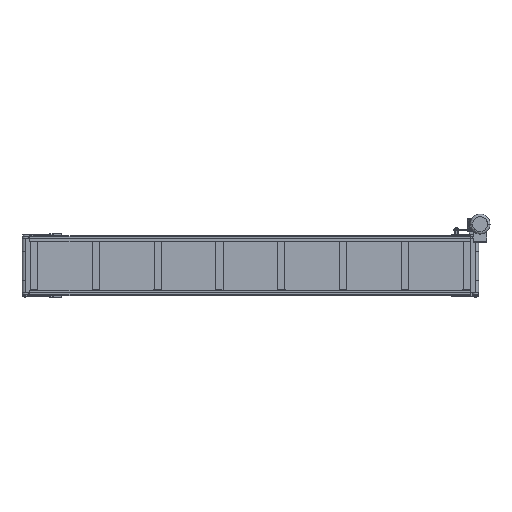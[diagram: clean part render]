
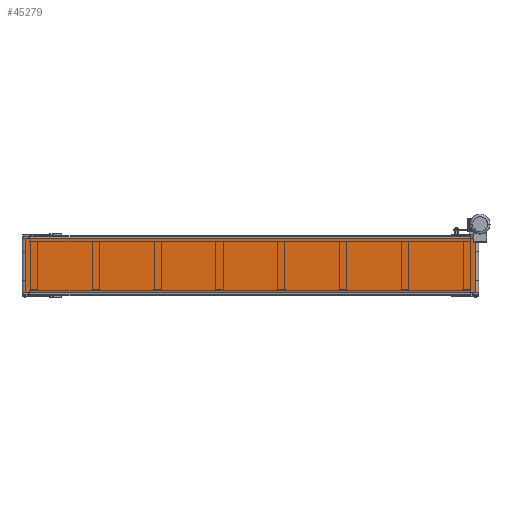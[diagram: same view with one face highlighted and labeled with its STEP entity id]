
A CAD part, front view. The second image highlights one B-rep face of the part: STEP entity #45279.
In plain terms, the highlighted planar face has unit normal (0, -1, 0).
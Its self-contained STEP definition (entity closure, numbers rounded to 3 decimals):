
#280 = LINE ( 'NONE', #20121, #41090 ) ;
#4487 = DIRECTION ( 'NONE',  ( 0., 0., 1. ) ) ;
#5079 = CARTESIAN_POINT ( 'NONE',  ( 1250., -17., -150. ) ) ;
#5331 = DIRECTION ( 'NONE',  ( 1., 0., 0. ) ) ;
#5582 = CARTESIAN_POINT ( 'NONE',  ( -1250., -17., -150. ) ) ;
#6230 = CARTESIAN_POINT ( 'NONE',  ( -1250., -17., -150. ) ) ;
#8256 = VERTEX_POINT ( 'NONE', #13049 ) ;
#8300 = EDGE_CURVE ( 'NONE', #33321, #11233, #40654, .T. ) ;
#8591 = CARTESIAN_POINT ( 'NONE',  ( -1250., -17., 150. ) ) ;
#8914 = EDGE_CURVE ( 'NONE', #28485, #11233, #24260, .T. ) ;
#10990 = PLANE ( 'NONE',  #32070 ) ;
#11233 = VERTEX_POINT ( 'NONE', #5079 ) ;
#11661 = CARTESIAN_POINT ( 'NONE',  ( 1250., -17., 150. ) ) ;
#13049 = CARTESIAN_POINT ( 'NONE',  ( -1250., -17., 150. ) ) ;
#14720 = CARTESIAN_POINT ( 'NONE',  ( -1250., -17., 150. ) ) ;
#14874 = ORIENTED_EDGE ( 'NONE', *, *, #8914, .F. ) ;
#15754 = DIRECTION ( 'NONE',  ( 0., 0., -1. ) ) ;
#15788 = DIRECTION ( 'NONE',  ( 0., 0., -1. ) ) ;
#16583 = FACE_OUTER_BOUND ( 'NONE', #46785, .T. ) ;
#20121 = CARTESIAN_POINT ( 'NONE',  ( -1250., -17., 150. ) ) ;
#22113 = ORIENTED_EDGE ( 'NONE', *, *, #44406, .T. ) ;
#22822 = VECTOR ( 'NONE', #15788, 1000. ) ;
#24260 = LINE ( 'NONE', #11661, #22822 ) ;
#24660 = ORIENTED_EDGE ( 'NONE', *, *, #37755, .F. ) ;
#28485 = VERTEX_POINT ( 'NONE', #44922 ) ;
#32070 = AXIS2_PLACEMENT_3D ( 'NONE', #8591, #46593, #4487 ) ;
#33321 = VERTEX_POINT ( 'NONE', #6230 ) ;
#34148 = ORIENTED_EDGE ( 'NONE', *, *, #8300, .T. ) ;
#34181 = VECTOR ( 'NONE', #5331, 1000. ) ;
#35203 = VECTOR ( 'NONE', #45698, 1000. ) ;
#37755 = EDGE_CURVE ( 'NONE', #8256, #28485, #50073, .T. ) ;
#40654 = LINE ( 'NONE', #5582, #34181 ) ;
#41090 = VECTOR ( 'NONE', #15754, 1000. ) ;
#44406 = EDGE_CURVE ( 'NONE', #8256, #33321, #280, .T. ) ;
#44922 = CARTESIAN_POINT ( 'NONE',  ( 1250., -17., 150. ) ) ;
#45279 = ADVANCED_FACE ( 'NONE', ( #16583 ), #10990, .F. ) ;
#45698 = DIRECTION ( 'NONE',  ( 1., 0., 0. ) ) ;
#46593 = DIRECTION ( 'NONE',  ( 0., 1., 0. ) ) ;
#46785 = EDGE_LOOP ( 'NONE', ( #34148, #14874, #24660, #22113 ) ) ;
#50073 = LINE ( 'NONE', #14720, #35203 ) ;
